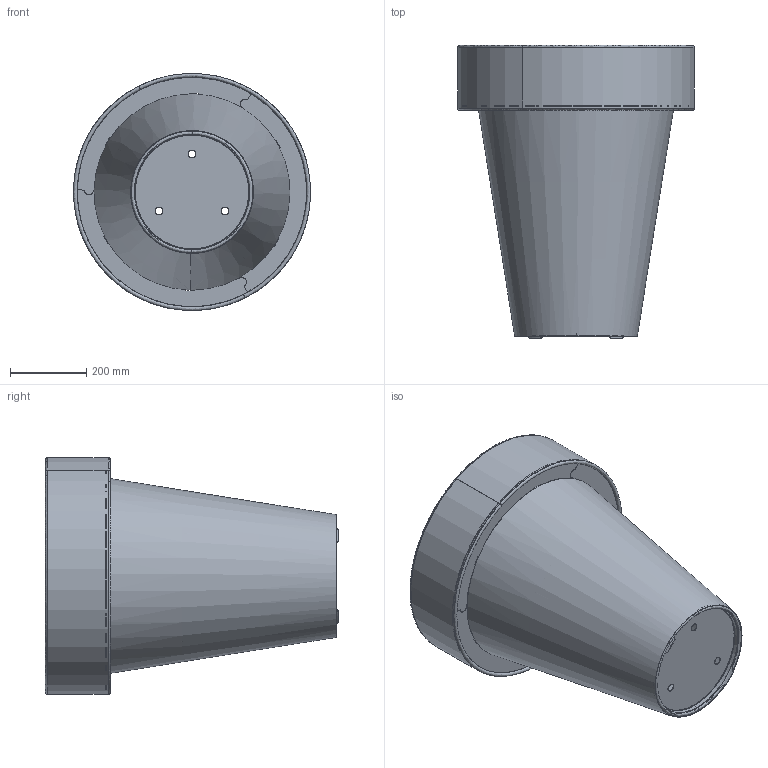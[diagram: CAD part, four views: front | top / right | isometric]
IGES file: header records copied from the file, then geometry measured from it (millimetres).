
Start section: SolidWorks IGES file using analytic representation for surfaces
Global section: file name: \\utenti\Dati Utenti\Tecnico\DC\2D - 3D per sito\3D\DeCastelli-3D-Omega 77.igs; native system: SolidWorks 2022; preprocessor: SolidWorks 2022; author: Simonep; date: 240807.172523; units: millimetre
Bounding box: 621.59 x 769.5 x 621.71 mm (x, y, z)
Surface area: 3234444 mm2 (no closed solid volume)
Topology: 0 solids, 0 shells, 91 faces, 1305 edges, 1305 vertices
Faces by surface type: bspline 61, revolution 30
